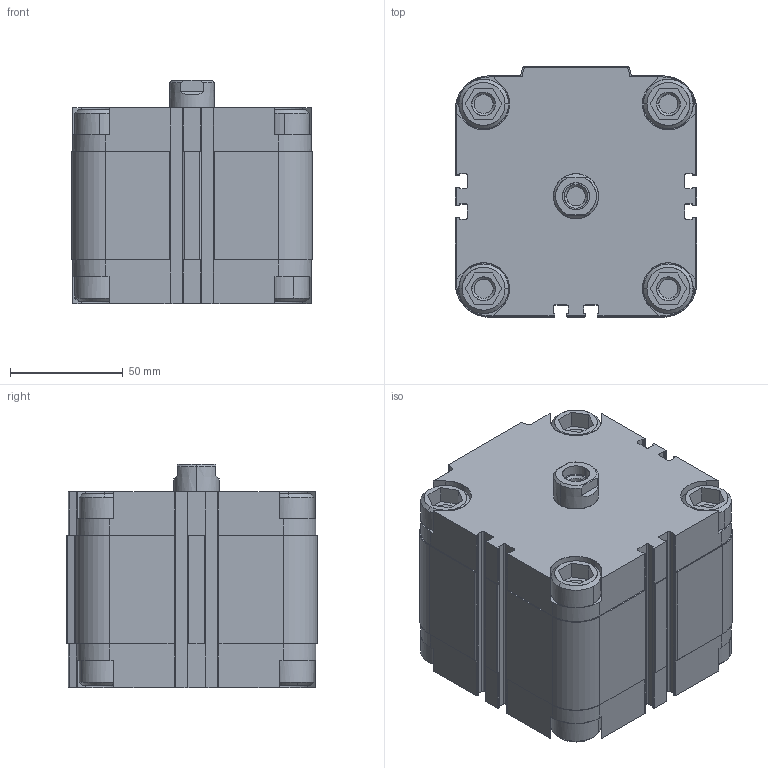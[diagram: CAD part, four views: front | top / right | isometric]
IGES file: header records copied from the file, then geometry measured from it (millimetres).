
Start section: SolidWorks IGES file using analytic representation for surfaces
Global section: file name: K:\Disegni Esecutivi\Cilindri\2_DISEGNI_cilindri_in_produzione\5_Cilindri Compatti\complessivicompatti\QF\QF080\QF80 PARTI\QF0800025A.igs; native system: SolidWorks 2011; preprocessor: SolidWorks 2011; author: Cad01; date: 110920.104806; units: millimetre
Bounding box: 107 x 111 x 99.1 mm (x, y, z)
Surface area: 80630.6 mm2 (no closed solid volume)
Topology: 0 solids, 0 shells, 417 faces, 5103 edges, 5099 vertices
Faces by surface type: bspline 212, revolution 205
